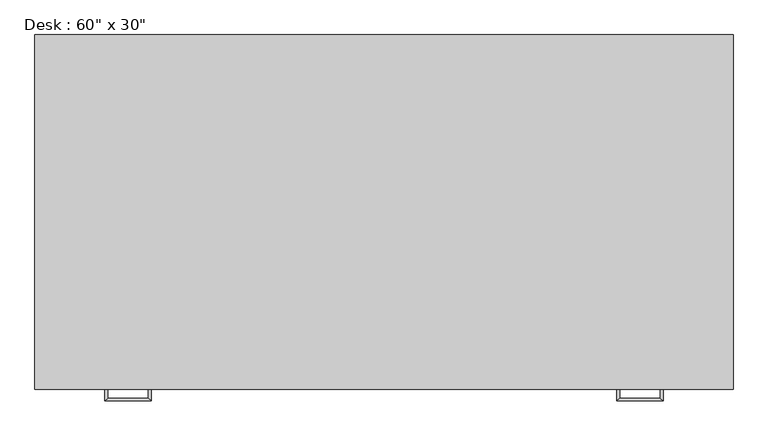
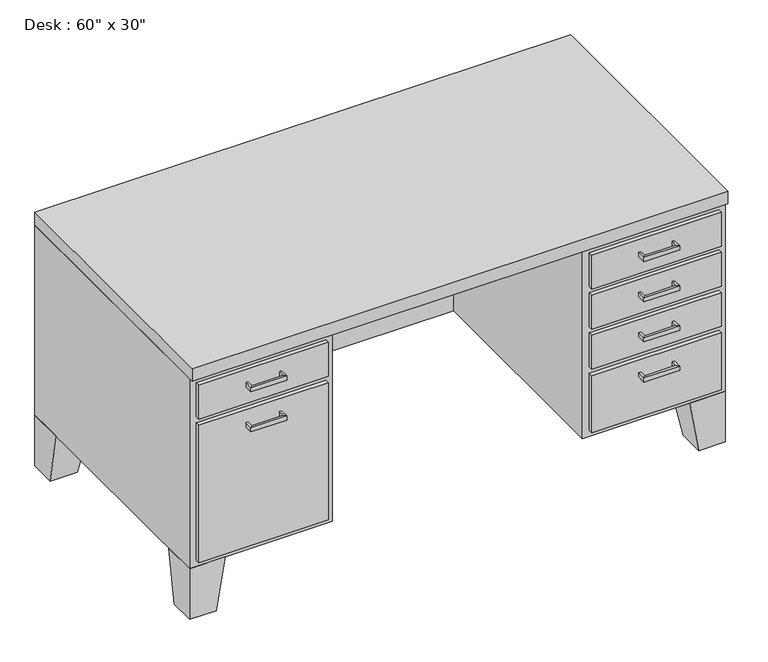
"""IFC4 building model written with IfcOpenShell, lengths in millimetres: furniture geometry."""

from ifc_helpers import new_model, si_unit, frame, origin, place, context, project, spatial, polyline, outline, extrude, faceted_brep, source, transform, mapped, element, save


def furniture_f1eb905c(model_context):
    return source(origin(), model_context, "Body", "SolidModel", [
        extrude(outline(polyline([(19.05, 0.0), (387.35, 0.0), (387.35, -12.7), (19.05, -12.7), (19.05, 0.0)])), frame((0.0, 0.0, 603.25), z_axis=(0.0, 0.0, 1.0), x_axis=(1.0, 0.0, 0.0)), (0.0, 0.0, 1.0), 101.6),
        extrude(outline(polyline([(19.05, 0.0), (387.35, 0.0), (387.35, -12.7), (19.05, -12.7), (19.05, 0.0)])), frame((0.0, 0.0, 171.45), z_axis=(0.0, 0.0, 1.0), x_axis=(1.0, 0.0, 0.0)), (0.0, 0.0, 1.0), 412.75),
        extrude(outline(polyline([(1136.65, 0.0), (1504.95, 0.0), (1504.95, -12.7), (1136.65, -12.7), (1136.65, 0.0)])), frame((0.0, 0.0, 603.25), z_axis=(0.0, 0.0, 1.0), x_axis=(1.0, 0.0, 0.0)), (0.0, 0.0, 1.0), 101.6),
        extrude(outline(polyline([(1136.65, 0.0), (1504.95, 0.0), (1504.95, -12.7), (1136.65, -12.7), (1136.65, 0.0)])), frame((0.0, 0.0, 171.45), z_axis=(0.0, 0.0, 1.0), x_axis=(1.0, 0.0, 0.0)), (0.0, 0.0, 1.0), 171.45),
        extrude(outline(polyline([(1136.65, 0.0), (1504.95, 0.0), (1504.95, -12.7), (1136.65, -12.7), (1136.65, 0.0)])), frame((0.0, 0.0, 482.6), z_axis=(0.0, 0.0, 1.0), x_axis=(1.0, 0.0, 0.0)), (0.0, 0.0, 1.0), 101.6),
        extrude(outline(polyline([(1136.65, 0.0), (1504.95, 0.0), (1504.95, -12.7), (1136.65, -12.7), (1136.65, 0.0)])), frame((0.0, 0.0, 361.95), z_axis=(0.0, 0.0, 1.0), x_axis=(1.0, 0.0, 0.0)), (0.0, 0.0, 1.0), 101.6),
        faceted_brep([(101.6, 0.0, 152.4), (101.6, 101.6, 152.4), (0.0, 101.6, 152.4), (0.0, 0.0, 152.4), (76.2, 0.0, 0.0), (0.0, 0.0, 0.0), (0.0, 76.2, 0.0), (76.2, 76.2, 0.0)], [[[0, 1, 2, 3]], [[4, 5, 6, 7]], [[4, 7, 1, 0]], [[7, 6, 2, 1]], [[6, 5, 3, 2]], [[5, 4, 0, 3]]]),
        faceted_brep([(101.6, 762.0, 152.4), (0.0, 762.0, 152.4), (0.0, 660.4, 152.4), (101.6, 660.4, 152.4), (76.2, 762.0, 0.0), (76.2, 685.8, 0.0), (0.0, 685.8, 0.0), (0.0, 762.0, 0.0)], [[[0, 1, 2, 3]], [[4, 5, 6, 7]], [[4, 7, 1, 0]], [[7, 6, 2, 1]], [[6, 5, 3, 2]], [[5, 4, 0, 3]]]),
        faceted_brep([(1422.4, 762.0, 152.4), (1422.4, 660.4, 152.4), (1524.0, 660.4, 152.4), (1524.0, 762.0, 152.4), (1447.8, 762.0, 0.0), (1524.0, 762.0, 0.0), (1524.0, 685.8, 0.0), (1447.8, 685.8, 0.0)], [[[0, 1, 2, 3]], [[4, 5, 6, 7]], [[4, 7, 1, 0]], [[7, 6, 2, 1]], [[6, 5, 3, 2]], [[5, 4, 0, 3]]]),
        faceted_brep([(1422.4, 0.0, 152.4), (1524.0, 0.0, 152.4), (1524.0, 101.6, 152.4), (1422.4, 101.6, 152.4), (1447.8, 0.0, 0.0), (1447.8, 76.2, 0.0), (1524.0, 76.2, 0.0), (1524.0, 0.0, 0.0)], [[[0, 1, 2, 3]], [[4, 5, 6, 7]], [[4, 7, 1, 0]], [[7, 6, 2, 1]], [[6, 5, 3, 2]], [[5, 4, 0, 3]]]),
        extrude(outline(polyline([(0.0, -12.7), (0.0, 762.0), (1524.0, 762.0), (1524.0, -12.7), (0.0, -12.7)])), frame((0.0, 0.0, 723.9), z_axis=(0.0, 0.0, 1.0), x_axis=(1.0, 0.0, 0.0)), (0.0, 0.0, 1.0), 38.1),
        extrude(outline(polyline([(1117.6, 0.0), (1117.6, 635.0), (406.4, 635.0), (406.4, 0.0), (0.0, 0.0), (0.0, 762.0), (1524.0, 762.0), (1524.0, 0.0), (1117.6, 0.0)])), frame((0.0, 0.0, 152.4), z_axis=(0.0, 0.0, 1.0), x_axis=(1.0, 0.0, 0.0)), (0.0, 0.0, 1.0), 571.5),
        faceted_brep([(158.75, -12.7, 546.1), (158.75, -12.7, 533.4), (152.4, -12.7, 533.4), (152.4, -12.7, 546.1), (158.75, -31.75, 546.1), (158.75, -31.75, 533.4), (152.4, -38.1, 533.4), (152.4, -38.1, 546.1), (247.65, -31.75, 546.1), (247.65, -31.75, 533.4), (254.0, -38.1, 533.4), (254.0, -38.1, 546.1), (247.65, -12.7, 546.1), (254.0, -12.7, 546.1), (254.0, -12.7, 533.4), (247.65, -12.7, 533.4)], [[[0, 1, 2, 3]], [[1, 0, 4, 5]], [[2, 1, 5, 6]], [[3, 2, 6, 7]], [[0, 3, 7, 4]], [[5, 4, 8, 9]], [[6, 5, 9, 10]], [[7, 6, 10, 11]], [[4, 7, 11, 8]], [[12, 13, 14, 15]], [[9, 8, 12, 15]], [[10, 9, 15, 14]], [[11, 10, 14, 13]], [[8, 11, 13, 12]]]),
        faceted_brep([(158.75, -12.7, 666.75), (158.75, -12.7, 654.05), (152.4, -12.7, 654.05), (152.4, -12.7, 666.75), (158.75, -31.75, 666.75), (158.75, -31.75, 654.05), (152.4, -38.1, 654.05), (152.4, -38.1, 666.75), (247.65, -31.75, 666.75), (247.65, -31.75, 654.05), (254.0, -38.1, 654.05), (254.0, -38.1, 666.75), (247.65, -12.7, 666.75), (254.0, -12.7, 666.75), (254.0, -12.7, 654.05), (247.65, -12.7, 654.05)], [[[0, 1, 2, 3]], [[1, 0, 4, 5]], [[2, 1, 5, 6]], [[3, 2, 6, 7]], [[0, 3, 7, 4]], [[5, 4, 8, 9]], [[6, 5, 9, 10]], [[7, 6, 10, 11]], [[4, 7, 11, 8]], [[12, 13, 14, 15]], [[9, 8, 12, 15]], [[10, 9, 15, 14]], [[11, 10, 14, 13]], [[8, 11, 13, 12]]]),
        faceted_brep([(1365.25, -12.7, 304.8), (1371.6, -12.7, 304.8), (1371.6, -12.7, 292.1), (1365.25, -12.7, 292.1), (1365.25, -31.75, 304.8), (1371.6, -38.1, 304.8), (1371.6, -38.1, 292.1), (1365.25, -31.75, 292.1), (1276.35, -31.75, 304.8), (1270.0, -38.1, 304.8), (1270.0, -38.1, 292.1), (1276.35, -31.75, 292.1), (1276.35, -12.7, 304.8), (1276.35, -12.7, 292.1), (1270.0, -12.7, 292.1), (1270.0, -12.7, 304.8)], [[[0, 1, 2, 3]], [[1, 0, 4, 5]], [[2, 1, 5, 6]], [[3, 2, 6, 7]], [[0, 3, 7, 4]], [[5, 4, 8, 9]], [[6, 5, 9, 10]], [[7, 6, 10, 11]], [[4, 7, 11, 8]], [[12, 13, 14, 15]], [[9, 8, 12, 15]], [[10, 9, 15, 14]], [[11, 10, 14, 13]], [[8, 11, 13, 12]]]),
        faceted_brep([(1365.25, -12.7, 425.45), (1371.6, -12.7, 425.45), (1371.6, -12.7, 412.75), (1365.25, -12.7, 412.75), (1365.25, -31.75, 425.45), (1371.6, -38.1, 425.45), (1371.6, -38.1, 412.75), (1365.25, -31.75, 412.75), (1276.35, -31.75, 425.45), (1270.0, -38.1, 425.45), (1270.0, -38.1, 412.75), (1276.35, -31.75, 412.75), (1276.35, -12.7, 425.45), (1276.35, -12.7, 412.75), (1270.0, -12.7, 412.75), (1270.0, -12.7, 425.45)], [[[0, 1, 2, 3]], [[1, 0, 4, 5]], [[2, 1, 5, 6]], [[3, 2, 6, 7]], [[0, 3, 7, 4]], [[5, 4, 8, 9]], [[6, 5, 9, 10]], [[7, 6, 10, 11]], [[4, 7, 11, 8]], [[12, 13, 14, 15]], [[9, 8, 12, 15]], [[10, 9, 15, 14]], [[11, 10, 14, 13]], [[8, 11, 13, 12]]]),
        faceted_brep([(1365.25, -12.7, 546.1), (1371.6, -12.7, 546.1), (1371.6, -12.7, 533.4), (1365.25, -12.7, 533.4), (1365.25, -31.75, 546.1), (1371.6, -38.1, 546.1), (1371.6, -38.1, 533.4), (1365.25, -31.75, 533.4), (1276.35, -31.75, 546.1), (1270.0, -38.1, 546.1), (1270.0, -38.1, 533.4), (1276.35, -31.75, 533.4), (1276.35, -12.7, 546.1), (1276.35, -12.7, 533.4), (1270.0, -12.7, 533.4), (1270.0, -12.7, 546.1)], [[[0, 1, 2, 3]], [[1, 0, 4, 5]], [[2, 1, 5, 6]], [[3, 2, 6, 7]], [[0, 3, 7, 4]], [[5, 4, 8, 9]], [[6, 5, 9, 10]], [[7, 6, 10, 11]], [[4, 7, 11, 8]], [[12, 13, 14, 15]], [[9, 8, 12, 15]], [[10, 9, 15, 14]], [[11, 10, 14, 13]], [[8, 11, 13, 12]]]),
        faceted_brep([(1365.25, -12.7, 666.75), (1371.6, -12.7, 666.75), (1371.6, -12.7, 654.05), (1365.25, -12.7, 654.05), (1365.25, -31.75, 666.75), (1371.6, -38.1, 666.75), (1371.6, -38.1, 654.05), (1365.25, -31.75, 654.05), (1276.35, -31.75, 666.75), (1270.0, -38.1, 666.75), (1270.0, -38.1, 654.05), (1276.35, -31.75, 654.05), (1276.35, -12.7, 666.75), (1276.35, -12.7, 654.05), (1270.0, -12.7, 654.05), (1270.0, -12.7, 666.75)], [[[0, 1, 2, 3]], [[1, 0, 4, 5]], [[2, 1, 5, 6]], [[3, 2, 6, 7]], [[0, 3, 7, 4]], [[5, 4, 8, 9]], [[6, 5, 9, 10]], [[7, 6, 10, 11]], [[4, 7, 11, 8]], [[12, 13, 14, 15]], [[9, 8, 12, 15]], [[10, 9, 15, 14]], [[11, 10, 14, 13]], [[8, 11, 13, 12]]]),
    ])


if __name__ == "__main__":
    model = new_model("IFC4")
    model_context = context("Model", 3, world=origin())
    ifc_project = project(units=[si_unit("LENGTHUNIT", "METRE", prefix="MILLI")], contexts=[model_context])
    site = spatial("IfcSite", under=ifc_project)
    building = spatial("IfcBuilding", under=site)
    placement = place(None, origin())
    furniture_shape = furniture_f1eb905c(model_context)
    element("IfcFurniture", 1, ObjectType="Desk : 60\" x 30\"", at=placement, inside=building, context=model_context, shape_type="MappedRepresentation", body=[
        mapped(furniture_shape, transform((0.0, 0.0, 0.0), x_axis=(1.0, 0.0, 0.0), y_axis=(0.0, 1.0, 0.0), z_axis=(0.0, 0.0, 1.0))),
    ])
    save(model, "model.ifc")
